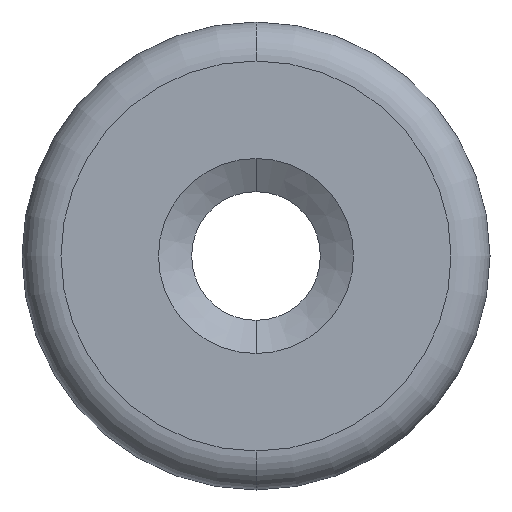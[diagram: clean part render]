
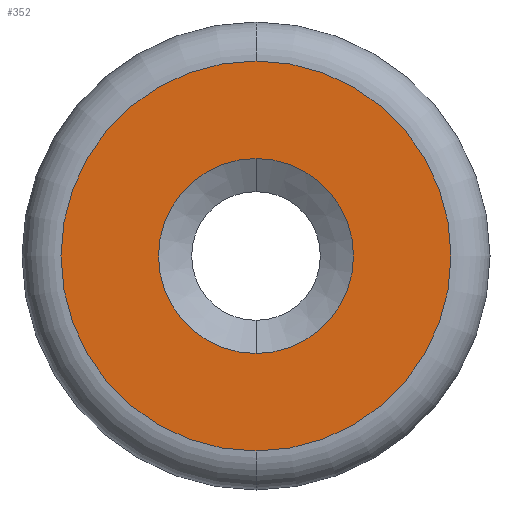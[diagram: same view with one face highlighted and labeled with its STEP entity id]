
A CAD part, front view. The second image highlights one B-rep face of the part: STEP entity #352.
In plain terms, the highlighted planar face has unit normal (0, -1, 0).
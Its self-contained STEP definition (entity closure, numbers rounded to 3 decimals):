
#20 = EDGE_LOOP ( 'NONE', ( #480, #633 ) ) ;
#25 = ORIENTED_EDGE ( 'NONE', *, *, #587, .F. ) ;
#54 = DIRECTION ( 'NONE',  ( 0., 0., -1. ) ) ;
#92 = AXIS2_PLACEMENT_3D ( 'NONE', #553, #276, #54 ) ;
#95 = FACE_OUTER_BOUND ( 'NONE', #20, .T. ) ;
#101 = CARTESIAN_POINT ( 'NONE',  ( 6., 0., 0. ) ) ;
#112 = DIRECTION ( 'NONE',  ( 0., -1., 0. ) ) ;
#132 = CIRCLE ( 'NONE', #327, 2.5 ) ;
#154 = DIRECTION ( 'NONE',  ( 0., 0., -1. ) ) ;
#156 = VERTEX_POINT ( 'NONE', #403 ) ;
#160 = DIRECTION ( 'NONE',  ( 0., -1., 0. ) ) ;
#162 = CARTESIAN_POINT ( 'NONE',  ( 0., 0., -2.5 ) ) ;
#186 = CARTESIAN_POINT ( 'NONE',  ( 0., 0., 2.5 ) ) ;
#214 = CARTESIAN_POINT ( 'NONE',  ( 0., 0., 0. ) ) ;
#236 = VERTEX_POINT ( 'NONE', #359 ) ;
#276 = DIRECTION ( 'NONE',  ( 0., -1., 0. ) ) ;
#304 = EDGE_CURVE ( 'NONE', #687, #320, #132, .T. ) ;
#313 = DIRECTION ( 'NONE',  ( 0., 0., -1. ) ) ;
#320 = VERTEX_POINT ( 'NONE', #162 ) ;
#327 = AXIS2_PLACEMENT_3D ( 'NONE', #214, #589, #313 ) ;
#331 = DIRECTION ( 'NONE',  ( 0., 0., -1. ) ) ;
#341 = EDGE_LOOP ( 'NONE', ( #25, #418 ) ) ;
#352 = ADVANCED_FACE ( 'NONE', ( #95, #694 ), #535, .T. ) ;
#359 = CARTESIAN_POINT ( 'NONE',  ( 0., 0., -5. ) ) ;
#372 = AXIS2_PLACEMENT_3D ( 'NONE', #560, #112, #397 ) ;
#392 = CARTESIAN_POINT ( 'NONE',  ( 0., 0., 0. ) ) ;
#397 = DIRECTION ( 'NONE',  ( 0., 0., -1. ) ) ;
#403 = CARTESIAN_POINT ( 'NONE',  ( 0., 0., 5. ) ) ;
#418 = ORIENTED_EDGE ( 'NONE', *, *, #304, .F. ) ;
#431 = EDGE_CURVE ( 'NONE', #236, #156, #625, .T. ) ;
#471 = AXIS2_PLACEMENT_3D ( 'NONE', #101, #160, #154 ) ;
#480 = ORIENTED_EDGE ( 'NONE', *, *, #431, .T. ) ;
#501 = DIRECTION ( 'NONE',  ( 0., -1., 0. ) ) ;
#509 = EDGE_CURVE ( 'NONE', #156, #236, #672, .T. ) ;
#535 = PLANE ( 'NONE',  #471 ) ;
#553 = CARTESIAN_POINT ( 'NONE',  ( 0., 0., 0. ) ) ;
#557 = CIRCLE ( 'NONE', #697, 2.5 ) ;
#560 = CARTESIAN_POINT ( 'NONE',  ( 0., 0., 0. ) ) ;
#587 = EDGE_CURVE ( 'NONE', #320, #687, #557, .T. ) ;
#589 = DIRECTION ( 'NONE',  ( 0., -1., 0. ) ) ;
#625 = CIRCLE ( 'NONE', #92, 5. ) ;
#633 = ORIENTED_EDGE ( 'NONE', *, *, #509, .T. ) ;
#672 = CIRCLE ( 'NONE', #372, 5. ) ;
#687 = VERTEX_POINT ( 'NONE', #186 ) ;
#694 = FACE_BOUND ( 'NONE', #341, .T. ) ;
#697 = AXIS2_PLACEMENT_3D ( 'NONE', #392, #501, #331 ) ;
